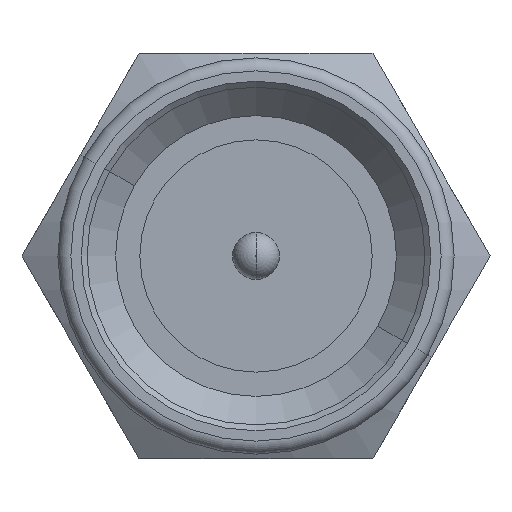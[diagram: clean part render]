
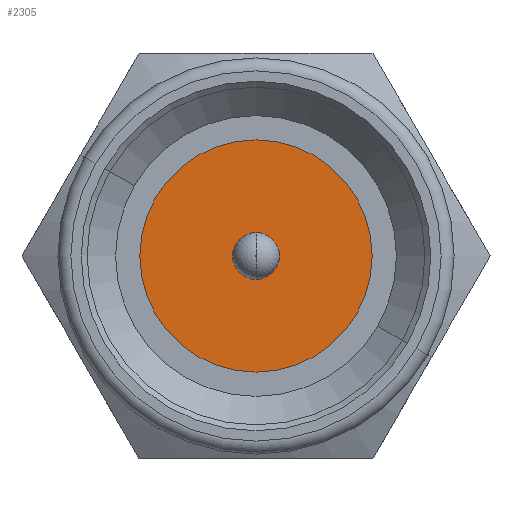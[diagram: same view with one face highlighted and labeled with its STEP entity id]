
A CAD part, left-side view. The second image highlights one B-rep face of the part: STEP entity #2305.
In plain terms, the highlighted planar face has unit normal (-1, 0, 0).
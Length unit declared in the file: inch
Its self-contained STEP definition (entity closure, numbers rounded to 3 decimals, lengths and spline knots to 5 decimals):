
#15 = CIRCLE ( 'NONE', #386, 0.018 ) ;
#259 = CIRCLE ( 'NONE', #341, 0.0894 ) ;
#341 = AXIS2_PLACEMENT_3D ( 'NONE', #624, #2200, #852 ) ;
#386 = AXIS2_PLACEMENT_3D ( 'NONE', #2386, #1043, #2618 ) ;
#577 = VERTEX_POINT ( 'NONE', #2052 ) ;
#624 = CARTESIAN_POINT ( 'NONE',  ( 0., 0., 0. ) ) ;
#690 = CARTESIAN_POINT ( 'NONE',  ( 0., 0., 0. ) ) ;
#761 = ORIENTED_EDGE ( 'NONE', *, *, #2371, .F. ) ;
#786 = CARTESIAN_POINT ( 'NONE',  ( 0., 0., -0.018 ) ) ;
#852 = DIRECTION ( 'NONE',  ( 0., 0., 1. ) ) ;
#858 = DIRECTION ( 'NONE',  ( 1., 0., 0. ) ) ;
#868 = CIRCLE ( 'NONE', #1055, 0.018 ) ;
#913 = DIRECTION ( 'NONE',  ( 0., 0., 1. ) ) ;
#965 = ORIENTED_EDGE ( 'NONE', *, *, #2132, .F. ) ;
#1043 = DIRECTION ( 'NONE',  ( -1., 0., 0. ) ) ;
#1055 = AXIS2_PLACEMENT_3D ( 'NONE', #2715, #1361, #2954 ) ;
#1083 = PLANE ( 'NONE',  #1406 ) ;
#1242 = CARTESIAN_POINT ( 'NONE',  ( 0., 0., 0.0894 ) ) ;
#1357 = AXIS2_PLACEMENT_3D ( 'NONE', #690, #2262, #913 ) ;
#1361 = DIRECTION ( 'NONE',  ( -1., 0., 0. ) ) ;
#1403 = FACE_BOUND ( 'NONE', #2942, .T. ) ;
#1406 = AXIS2_PLACEMENT_3D ( 'NONE', #2207, #858, #2444 ) ;
#1593 = ORIENTED_EDGE ( 'NONE', *, *, #2463, .T. ) ;
#1715 = VERTEX_POINT ( 'NONE', #1242 ) ;
#1780 = VERTEX_POINT ( 'NONE', #1914 ) ;
#1914 = CARTESIAN_POINT ( 'NONE',  ( 0., 0., 0.018 ) ) ;
#1990 = CIRCLE ( 'NONE', #1357, 0.0894 ) ;
#1993 = FACE_OUTER_BOUND ( 'NONE', #2294, .T. ) ;
#2052 = CARTESIAN_POINT ( 'NONE',  ( 0., 0., -0.0894 ) ) ;
#2132 = EDGE_CURVE ( 'NONE', #1780, #2748, #15, .T. ) ;
#2200 = DIRECTION ( 'NONE',  ( -1., 0., 0. ) ) ;
#2207 = CARTESIAN_POINT ( 'NONE',  ( 0., 0.0575, 0. ) ) ;
#2262 = DIRECTION ( 'NONE',  ( -1., 0., 0. ) ) ;
#2280 = EDGE_CURVE ( 'NONE', #1715, #577, #259, .T. ) ;
#2294 = EDGE_LOOP ( 'NONE', ( #2853, #1593 ) ) ;
#2305 = ADVANCED_FACE ( 'NONE', ( #1403, #1993 ), #1083, .F. ) ;
#2371 = EDGE_CURVE ( 'NONE', #2748, #1780, #868, .T. ) ;
#2386 = CARTESIAN_POINT ( 'NONE',  ( 0., 0., 0. ) ) ;
#2444 = DIRECTION ( 'NONE',  ( 0., 0., -1. ) ) ;
#2463 = EDGE_CURVE ( 'NONE', #577, #1715, #1990, .T. ) ;
#2618 = DIRECTION ( 'NONE',  ( 0., 0., -1. ) ) ;
#2715 = CARTESIAN_POINT ( 'NONE',  ( 0., 0., 0. ) ) ;
#2748 = VERTEX_POINT ( 'NONE', #786 ) ;
#2853 = ORIENTED_EDGE ( 'NONE', *, *, #2280, .T. ) ;
#2942 = EDGE_LOOP ( 'NONE', ( #761, #965 ) ) ;
#2954 = DIRECTION ( 'NONE',  ( 0., 0., -1. ) ) ;
